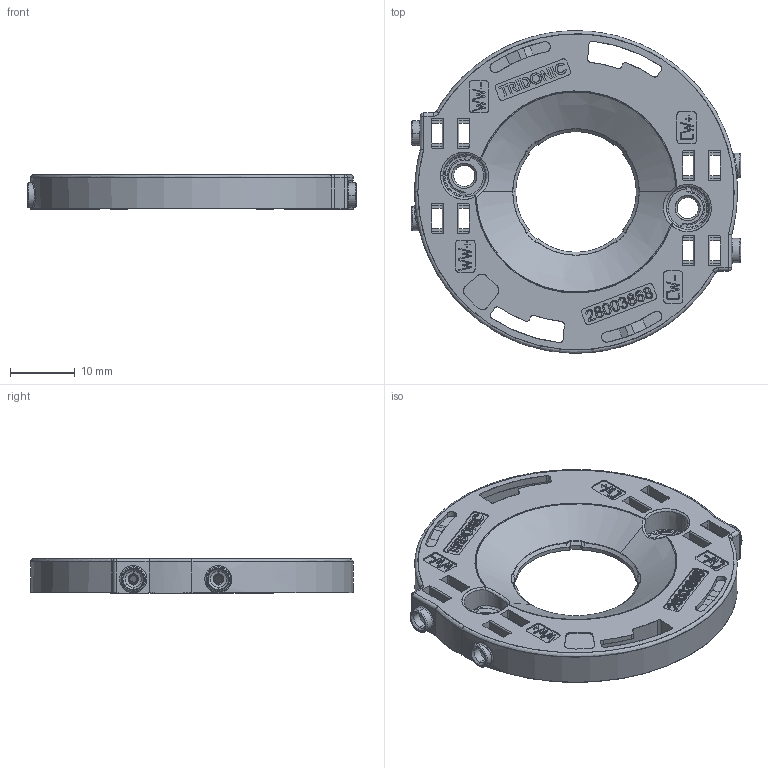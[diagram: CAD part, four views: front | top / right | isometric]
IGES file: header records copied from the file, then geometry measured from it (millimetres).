
Start section: SolidWorks IGES file using analytic representation for surfaces
Global section: file name: C:\Users\Bernhard.Fink\OneDrive - Zumtobel Group\Desktop\16208885_sle-tw-housing-d50-4t.IGS; native system: SolidWorks 2020; preprocessor: SolidWorks 2020; author: Bernhard.Fink; date: 210616.104502; units: millimetre
Bounding box: 51 x 50 x 5.42 mm (x, y, z)
Surface area: 7143.4 mm2 (no closed solid volume)
Topology: 0 solids, 0 shells, 2225 faces, 17855 edges, 17810 vertices
Faces by surface type: bspline 1656, revolution 569
